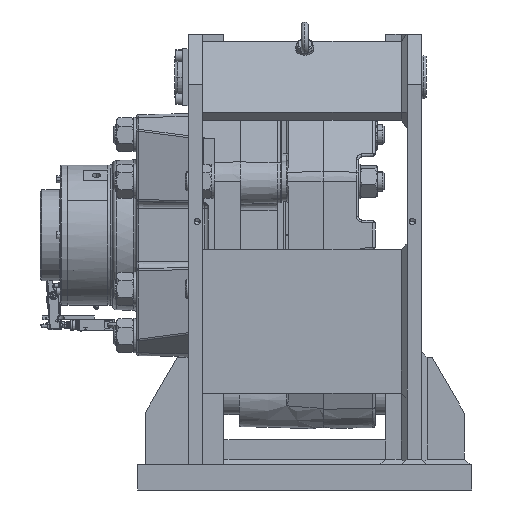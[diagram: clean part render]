
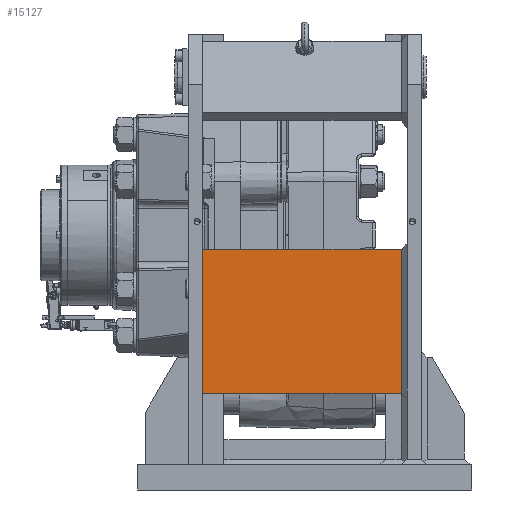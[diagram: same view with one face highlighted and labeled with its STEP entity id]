
A CAD part, front view. The second image highlights one B-rep face of the part: STEP entity #15127.
In plain terms, the highlighted planar face has unit normal (0, -1, 0) as drawn and (-1, 0, 0) by its records, which use the part's own axes.
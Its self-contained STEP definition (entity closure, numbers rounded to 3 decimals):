
#2179=DIRECTION('',(0.,1.,0.));
#2180=VECTOR('',#2179,200.);
#2181=CARTESIAN_POINT('',(-161.908,-184.745,-142.5));
#2182=LINE('',#2181,#2180);
#6233=DIRECTION('',(0.,1.,0.));
#6234=VECTOR('',#6233,200.);
#6235=CARTESIAN_POINT('',(-161.908,-184.745,134.5));
#6236=LINE('',#6235,#6234);
#6247=DIRECTION('',(0.,0.,-1.));
#6248=VECTOR('',#6247,277.);
#6249=CARTESIAN_POINT('',(-161.908,-184.745,134.5));
#6250=LINE('',#6249,#6248);
#6254=DIRECTION('',(0.,0.,-1.));
#6255=VECTOR('',#6254,277.);
#6256=CARTESIAN_POINT('',(-161.908,15.255,134.5));
#6257=LINE('',#6256,#6255);
#7081=CARTESIAN_POINT('',(-161.908,-184.745,134.5));
#7082=VERTEX_POINT('',#7081);
#7083=CARTESIAN_POINT('',(-161.908,15.255,134.5));
#7084=VERTEX_POINT('',#7083);
#7086=CARTESIAN_POINT('',(-161.908,-184.745,-142.5));
#7088=VERTEX_POINT('',#7086);
#7089=CARTESIAN_POINT('',(-161.908,15.255,-142.5));
#7091=VERTEX_POINT('',#7089);
#15115=CARTESIAN_POINT('',(-161.908,15.255,
342.86));
#15116=DIRECTION('',(1.,0.,0.));
#15117=DIRECTION('',(0.,1.,0.));
#15118=AXIS2_PLACEMENT_3D('',#15115,#15116,#15117);
#15119=PLANE('',#15118);
#15120=ORIENTED_EDGE('',*,*,#15099,.F.);
#15121=ORIENTED_EDGE('',*,*,#15061,.T.);
#15122=ORIENTED_EDGE('',*,*,#10264,.T.);
#15124=ORIENTED_EDGE('',*,*,#15123,.F.);
#15125=EDGE_LOOP('',(#15120,#15121,#15122,#15124));
#15126=FACE_OUTER_BOUND('',#15125,.F.);
#15127=ADVANCED_FACE('',(#15126),#15119,.F.);
#10264=EDGE_CURVE('',#7088,#7091,#2182,.T.);
#15061=EDGE_CURVE('',#7082,#7088,#6250,.T.);
#15099=EDGE_CURVE('',#7082,#7084,#6236,.T.);
#15123=EDGE_CURVE('',#7084,#7091,#6257,.T.);
